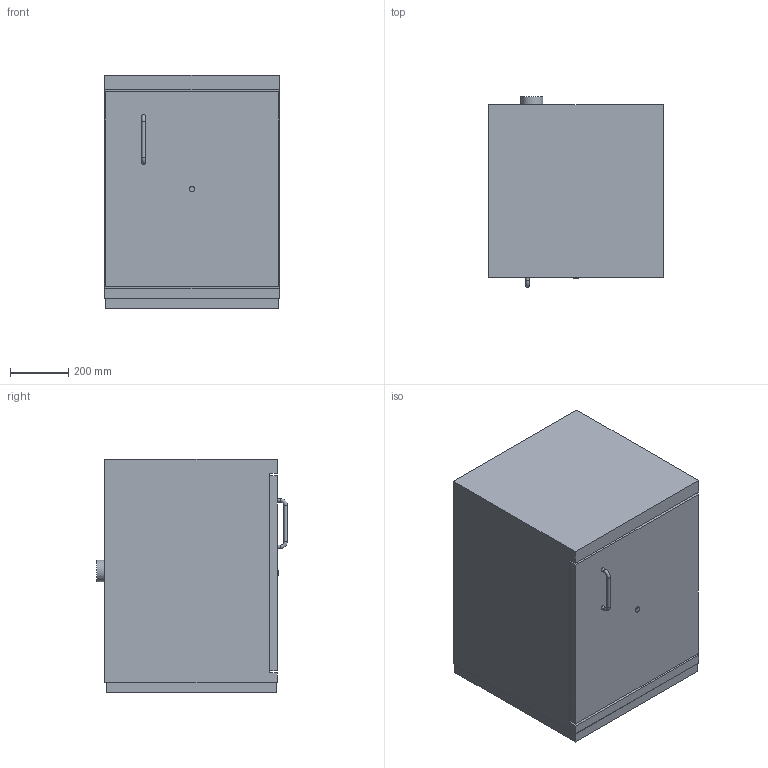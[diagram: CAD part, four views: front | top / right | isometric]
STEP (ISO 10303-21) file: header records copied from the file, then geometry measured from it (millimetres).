
FILE_DESCRIPTION(/* description */ ('Unknown'),/* implementation_level */ '2;1');
FILE_NAME(/* name */ 'Sicherheitsschrank Typ 90_D00090498',/* time_stamp */ '2019-04-10T11:59:30+02:00',/* author */ ('Unknown'),/* organization */ ('Unknown'),/* preprocessor_version */ 'ST-DEVELOPER v16.7',/* originating_system */ 'DEX',/* authorisation */ $);
FILE_SCHEMA (('AUTOMOTIVE_DESIGN {1 0 10303 214 3 1 1}'));
Length unit declared in the file: millimetre
Products named in the file (1): Sicherheitsschrank Typ 90_D00090498
Bounding box: 601 x 657 x 805 mm (x, y, z)
Volume: 286877589.4 mm3; surface area: 2714006.7 mm2
Topology: 1 solids, 1 shells, 31 faces, 71 edges, 47 vertices
Faces by surface type: plane 23, cylinder 6, torus 2
Full cylindrical faces by diameter (mm): 12 x3, 18 x1, 75 x2
Entity records: 1049 total; most frequent: DIRECTION 136, CARTESIAN_POINT 136, ORIENTED_EDGE 120, EDGE_CURVE 60, LINE 48, VECTOR 48, EDGE_LOOP 46, FACE_BOUND 46
